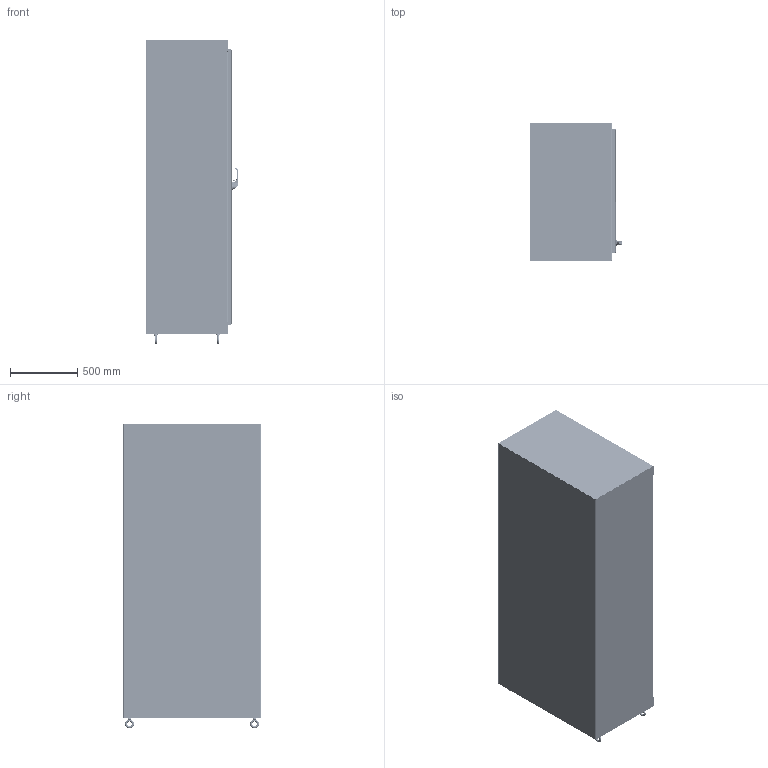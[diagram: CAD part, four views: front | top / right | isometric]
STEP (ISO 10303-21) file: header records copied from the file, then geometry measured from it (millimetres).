
FILE_DESCRIPTION((''),'2;1');
FILE_NAME('MODEL-461_ASM','2023-09-19T11:18:59',('chads'),('SAGINAW CONTROL & ENGINEERING'),'CREO PARAMETRIC BY PTC INC, 2021284','CREO PARAMETRIC BY PTC INC, 2021284','');
FILE_SCHEMA(('AUTOMOTIVE_DESIGN { 1 0 10303 214 1 1 1 1 }'));
Length unit declared in the file: inch
Products named in the file (78): MODEL-461-L-SD; MODEL-461-TP; MODEL-461-R-SD; MODEL-461-BTM; MODEL-461-DR; 100837; 111267; 100882; 100953_HANDLE; 100953_HANDLE_INSERT; 100953_SHAFT_CAM; 100953_ADAPTER_CAM; 100953_NUT_CAM; 100953_BASE; 100953_O-RING; 100953_WASHER_SEALING; 100953_NUT_MOUNTING_LARGE; 100953_NUT_MOUNTING_SMALL; 100953_SCREW_SMALL; 100953_INSERT; 100953_PADLOCK_CATCH; 100953_ASM; 102237; 100030; 102237_ASM; MODEL-461-ROD-UPR; 128146; 128145; 128144; 102482; MODEL-461-ROD-UPR_ASM; 128143; 112504; MODEL-461-ROD-LWR; MODEL-461-ROD-LWR_ASM; MODEL-461-PR-GSKT; 128258; 128258_ASM; 126395; 102483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
Assembly tree (154 placements, depth 4):
  MODEL-461_ASM
    MODEL-461-L-SD
    MODEL-461-TP
    MODEL-461-R-SD
    MODEL-461-BTM
    MODEL-461-DOOR-ASSY_ASM
      MODEL-461-DR
      100837  x7
      111267
      100882  x12
      100953_ASM
        100953_HANDLE
        100953_HANDLE_INSERT
        100953_SHAFT_CAM
        100953_ADAPTER_CAM
        100953_NUT_CAM
        100953_BASE
        100953_O-RING
        100953_WASHER_SEALING
        100953_NUT_MOUNTING_LARGE
        100953_NUT_MOUNTING_SMALL
        100953_SCREW_SMALL
        100953_INSERT
        100953_PADLOCK_CATCH
      102237_ASM
        102237
        100030  x2
      MODEL-461-ROD-UPR_ASM
        MODEL-461-ROD-UPR
        128146
        128145
        128144
        102482  x2
      128143  x2
      112504  x2
      MODEL-461-ROD-LWR_ASM
        MODEL-461-ROD-LWR
        128146
        128145
        128144
        102482  x2
      MODEL-461-PR-GSKT
      128258_ASM  x4
        128258
      126395  x4
      102483  x4
      101383_ASM  x4
        101383
        101383-STUD
      101221  x4
    MODEL-461-BCK
    100837  x7
    103357
    101653  x8
    MODEL-461-S-BRACE  x2
    102245  x2
    MODEL-461-BB  x3
    121454
    130514  x4
    103300_ASM  x4
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Bounding box: 686.47 x 1022.35 x 2259.2 mm (x, y, z)
Volume: 29014963.9 mm3; surface area: 20980822.7 mm2
Topology: 161 solids, 161 shells, 14748 faces, 37611 edges, 23259 vertices
Faces by surface type: plane 4923, cylinder 4131, bspline 3074, torus 1215, cone 690, sphere 450, extrusion 265
Entity records: 428071 total; most frequent: CARTESIAN_POINT 183744, ORIENTED_EDGE 37250, DIRECTION 35437, PRESENTATION_STYLE_ASSIGNMENT 18834, STYLED_ITEM 18664, EDGE_CURVE 18625, CURVE_STYLE 18577, AXIS2_PLACEMENT_3D 13323
